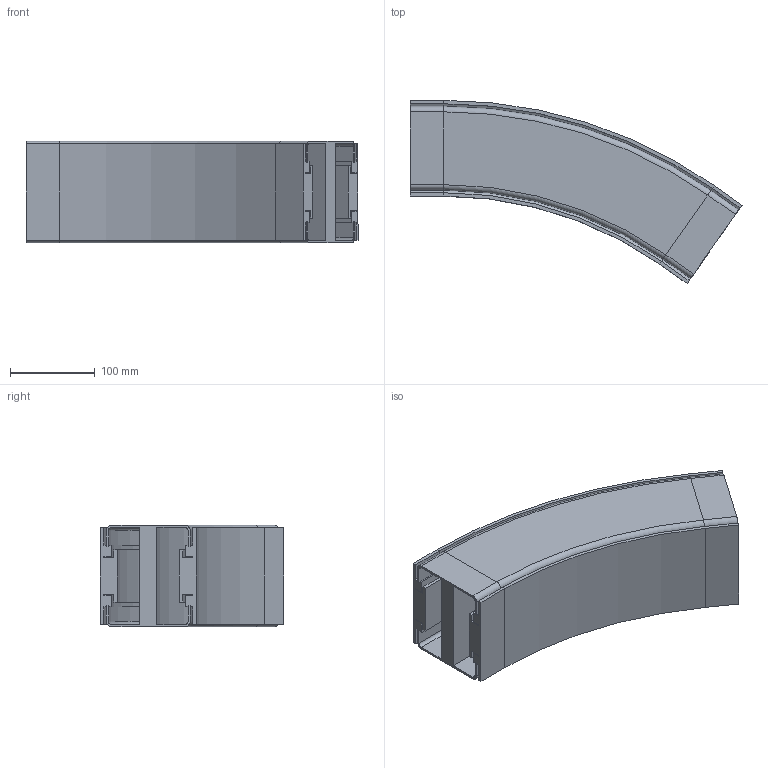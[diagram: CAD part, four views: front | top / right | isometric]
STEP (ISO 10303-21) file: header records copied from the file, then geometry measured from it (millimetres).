
FILE_DESCRIPTION (( 'STEP AP214' ), '1' );
FILE_NAME ('VC.120 Verticale bochtsectie.R500 35.STEP', '2017-02-08T08:10:21', ( '' ), ( '' ), 'SwSTEP 2.0', 'SolidWorks 2016', '' );
FILE_SCHEMA (( 'AUTOMOTIVE_DESIGN' ));
Length unit declared in the file: millimetre
Products named in the file (1): VC.120 Verticale bochtsectie.R500 35
Bounding box: 391.96 x 216.15 x 120 mm (x, y, z)
Volume: 2272560.9 mm3; surface area: 561306.2 mm2
Topology: 1 solids, 1 shells, 206 faces, 476 edges, 272 vertices
Faces by surface type: plane 144, cylinder 46, cone 8, torus 8
Entity records: 5674 total; most frequent: DIRECTION 990, CARTESIAN_POINT 955, ORIENTED_EDGE 952, EDGE_CURVE 476, LINE 376, VECTOR 376, AXIS2_PLACEMENT_3D 307, VERTEX_POINT 272
